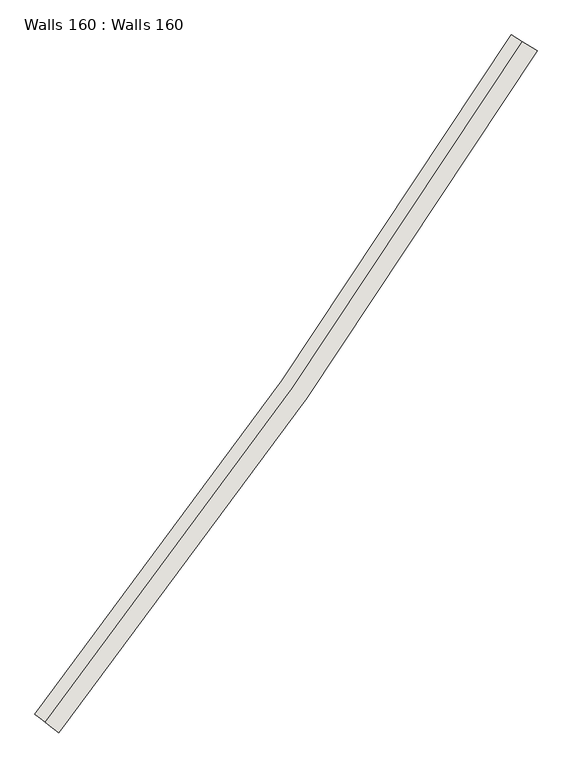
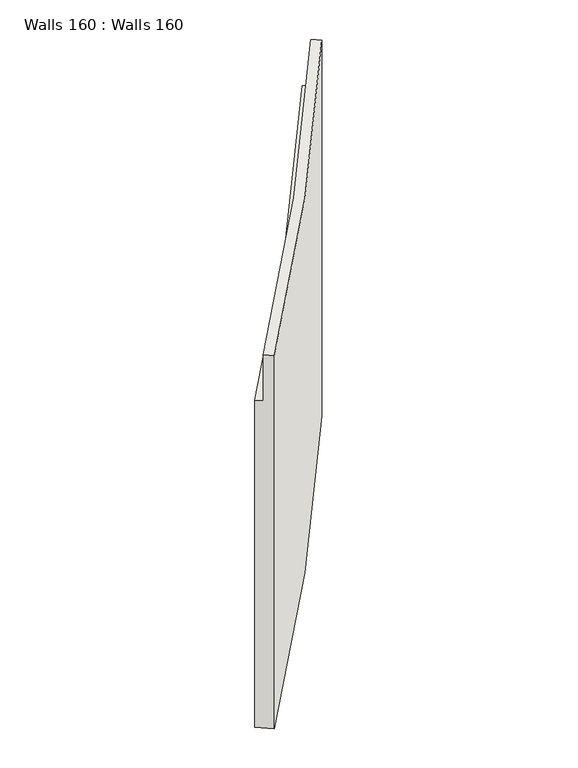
"""IFC4 building model written with IfcOpenShell, lengths in millimetres: wall geometry, Walls 160 : Walls 160."""

from ifc_helpers import new_model, si_unit, frame, origin, place, context, project, spatial, source, transform, mapped, element, save
from ifc_brep_helpers import plane_surface, spline_curve, spline_surface, advanced_brep


def walls_160_walls_160_15663184(model_context):
    return source(origin(), model_context, "Body", "AdvancedBrep", [
        advanced_brep(
        [(150928.5966484, 61341.0270217, 649170.1851545), (151098.2153944, 61235.0577761, 649170.1851545), (151098.2153944, 61235.0577761, 640989.9781818), (150801.3825889, 61420.5039559, 640989.9781818), (150801.3825889, 61420.5039559, 648170.1751545), (150928.5966484, 61341.0270217, 648170.1751545), (145414.6633354, 53477.1832277, 649010.216017), (145414.6633354, 53477.1832277, 648010.2060169), (145296.1267959, 53569.1021528, 648010.2060169), (145296.1267959, 53569.1021528, 640889.7832813), (145572.7120549, 53354.624661, 640889.7832813), (145572.7120549, 53354.624661, 649010.216017)],
        [
            (0, 1),
            (1, 2),
            (2, 3),
            (3, 4),
            (4, 5),
            (5, 0),
            (6, 7),
            (7, 8),
            (8, 9),
            (9, 10),
            (10, 11),
            (11, 6),
            (11, 1, spline_curve(3, [(145572.7120549, 53354.624661, 649010.216017), (146559.160717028, 54620.161896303, 649036.877540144), (147513.656071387, 55910.734756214, 649063.539062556), (149356.281783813, 58538.662340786, 649116.862108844), (150244.412142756, 59876.017066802, 649143.523631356), (151098.2153944, 61235.0577761, 649170.1851545)], [4, 2, 4], [0.0, 15.778976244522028, 31.557952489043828])),
            (0, 6, spline_curve(3, [(150928.5966484, 61341.0270217, 649170.1851545), (150076.58022696, 59984.846385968, 649143.523631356), (149190.309052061, 58650.30653048, 649116.862108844), (147351.541660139, 56027.91107812, 649063.539062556), (146399.045442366, 54740.0554807, 649036.877540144), (145414.6633354, 53477.1832277, 649010.216017)], [4, 2, 4], [0.0, 15.7789762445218, 31.557952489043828])),
            (10, 2, spline_curve(3, [(145572.7120549, 53354.624661, 640889.7832813), (146559.160717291, 54620.161896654, 640906.482431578), (147513.656071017, 55910.734756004, 640923.181581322), (149356.281784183, 58538.662340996, 640956.579881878), (150244.412142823, 59876.017066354, 640973.279031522), (151098.2153944, 61235.0577761, 640989.9781818)], [4, 2, 4], [0.0, 15.794829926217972, 31.589659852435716])),
            (9, 3, spline_curve(3, [(145296.1267959, 53569.1021528, 640889.7832813), (146278.958986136, 54829.97566888, 640906.482431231), (147229.95585151, 56115.793319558, 640923.181581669), (149065.82950329, 58734.039672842, 640956.579881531), (149950.706289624, 60066.468375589, 640973.279031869), (150801.3825889, 61420.5039559, 640989.9781818)], [4, 2, 4], [0.0, 15.765204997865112, 31.530409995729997])),
            (8, 4, spline_curve(3, [(145296.1267959, 53569.1021528, 648010.2060169), (146278.958986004, 54829.975669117, 648036.867540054), (147229.955851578, 56115.793319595, 648063.529062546), (149065.829503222, 58734.039672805, 648116.852108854), (149950.706289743, 60066.468375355, 648143.513631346), (150801.3825889, 61420.5039559, 648170.1751545)], [4, 2, 4], [0.0, 15.736754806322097, 31.47350961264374])),
            (7, 5, spline_curve(3, [(145414.6633354, 53477.1832277, 648010.2060169), (146399.045442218, 54740.055480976, 648036.867540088), (147351.541660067, 56027.911078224, 648063.529062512), (149190.309052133, 58650.306530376, 648116.852108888), (150076.580227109, 59984.846385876, 648143.513631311), (150928.5966484, 61341.0270217, 648170.1751545)], [4, 2, 4], [0.0, 15.74994004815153, 31.499880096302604])),
        ],
        [
            plane_surface(frame((150942.7315439, 61332.1962513, 646110.1128303), z_axis=(0.5298462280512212, 0.8480937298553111, 0.0), x_axis=(0.8480937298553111, -0.5298462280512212, 0.0))),
            plane_surface(frame((145427.8340621, 53466.9700138, 645970.0684384), z_axis=(-0.6127928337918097, -0.79024359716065, 0.0), x_axis=(0.79024359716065, -0.6127928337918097, 0.0))),
            spline_surface(3, 3, [[(145414.6633354, 53477.1832277, 649010.216017), (146399.045442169, 54740.055480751, 649036.877539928), (147351.541659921, 56027.911078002, 649063.539062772), (149190.309052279, 58650.306530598, 649116.862108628), (150076.580226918, 59984.846385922, 649143.523631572), (150928.5966484, 61341.0270217, 649170.1851545)], [(145441.004788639, 53456.756799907, 649010.216017), (146425.73132131, 54720.073216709, 649036.877539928), (147378.560728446, 56008.38169097, 649063.539062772), (149217.971174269, 58631.699165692, 649116.862108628), (150104.552212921, 59966.708166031, 649143.523631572), (150956.866439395, 61323.365480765, 649170.1851545)], [(145467.346241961, 53436.330372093, 649010.216017), (146452.417200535, 54700.090952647, 649036.877539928), (147405.579796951, 55988.85230402, 649063.539062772), (149245.633296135, 58613.091800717, 649116.862108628), (150132.524198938, 59948.569946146, 649143.523631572), (150985.136230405, 61305.703939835, 649170.1851545)], [(145520.029148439, 53395.477516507, 649010.216017), (146505.788958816, 54660.126424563, 649036.877539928), (147459.617933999, 55949.793529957, 649063.539062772), (149300.957540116, 58575.877070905, 649116.862108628), (150188.468170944, 59912.293506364, 649143.523631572), (151041.675812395, 61270.380857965, 649170.1851545)], [(145546.370601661, 53375.051088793, 649010.216017), (146532.474837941, 54640.144160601, 649036.877539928), (147486.637002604, 55930.264143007, 649063.539062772), (149328.619662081, 58557.26970593, 649116.862108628), (150216.440156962, 59894.155286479, 649143.523631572), (151069.945603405, 61252.719317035, 649170.1851545)], [(145572.7120549, 53354.624661, 649010.216017), (146559.160717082, 54620.161896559, 649036.877539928), (147513.656071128, 55910.734755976, 649063.539062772), (149356.281784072, 58538.662341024, 649116.862108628), (150244.412142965, 59876.017066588, 649143.523631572), (151098.2153944, 61235.0577761, 649170.1851545)]], [4, 2, 4], [4, 2, 4], [0.0, 0.32808398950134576, 0.6561679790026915], [0.0, 15.778976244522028, 31.557952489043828]),
            spline_surface(3, 3, [[(145572.7120549, 53354.624661, 649010.216017), (146559.160717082, 54620.161896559, 649036.877539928), (147513.656071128, 55910.734755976, 649063.539062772), (149356.281784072, 58538.662341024, 649116.862108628), (150244.412142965, 59876.017066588, 649143.523631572), (151098.2153944, 61235.0577761, 649170.1851545)], [(145572.7120549, 53354.624661, 647656.810561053), (146559.160717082, 54620.161896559, 647681.811688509), (147513.656071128, 55910.734755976, 647706.812815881), (149356.281784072, 58538.662341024, 647756.815070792), (150244.412142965, 59876.017066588, 647781.816198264), (151098.2153944, 61235.0577761, 647806.81732572)], [(145572.7120549, 53354.624661, 646303.405105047), (146559.160717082, 54620.161896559, 646326.74583703), (147513.656071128, 55910.734755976, 646350.08656898), (149356.281784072, 58538.662341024, 646396.768032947), (150244.412142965, 59876.017066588, 646420.108764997), (151098.2153944, 61235.0577761, 646443.44949698)], [(145572.7120549, 53354.624661, 643596.594193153), (146559.160717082, 54620.161896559, 643616.614134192), (147513.656071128, 55910.734755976, 643636.634075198), (149356.281784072, 58538.662341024, 643676.673957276), (150244.412142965, 59876.017066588, 643696.693898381), (151098.2153944, 61235.0577761, 643716.71383942)], [(145572.7120549, 53354.624661, 642243.188737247), (146559.160717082, 54620.161896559, 642261.548282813), (147513.656071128, 55910.734755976, 642279.907828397), (149356.281784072, 58538.662341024, 642316.62691953), (150244.412142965, 59876.017066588, 642334.986465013), (151098.2153944, 61235.0577761, 642353.34601058)], [(145572.7120549, 53354.624661, 640889.7832813), (146559.160717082, 54620.161896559, 640906.482431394), (147513.656071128, 55910.734755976, 640923.181581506), (149356.281784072, 58538.662341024, 640956.579881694), (150244.412142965, 59876.017066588, 640973.279031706), (151098.2153944, 61235.0577761, 640989.9781818)]], [4, 2, 4], [4, 2, 4], [0.0, 13.369947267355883, 26.739894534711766], [0.0, 15.794829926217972, 31.589659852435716]),
            spline_surface(3, 3, [[(145572.7120549, 53354.624661, 640889.7832813), (146559.160717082, 54620.161896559, 640906.482431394), (147513.656071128, 55910.734755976, 640923.181581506), (149356.281784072, 58538.662341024, 640956.579881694), (150244.412142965, 59876.017066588, 640973.279031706), (151098.2153944, 61235.0577761, 640989.9781818)], [(145526.614511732, 53390.370909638, 640889.7832813), (146512.460428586, 54655.130858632, 640906.482431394), (147466.372701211, 55944.911183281, 640923.181581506), (149307.873070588, 58571.225229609, 640956.579881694), (150195.461167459, 59907.758951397, 640973.279031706), (151048.743260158, 61265.965472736, 640989.9781818)], [(145480.516968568, 53426.117158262, 640889.7832813), (146465.760140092, 54690.099820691, 640906.482431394), (147419.089331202, 55979.087610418, 640923.181581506), (149259.464357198, 58603.788118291, 640956.579881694), (150146.510191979, 59939.500836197, 640973.279031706), (150999.271125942, 61296.873169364, 640989.9781818)], [(145388.321882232, 53497.609655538, 640889.7832813), (146372.359563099, 54760.037744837, 640906.482431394), (147324.522591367, 56047.440465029, 640923.181581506), (149162.646930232, 58668.913895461, 640956.579881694), (150048.608240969, 60002.984605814, 640973.279031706), (150900.326857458, 61358.688562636, 640989.9781818)], [(145342.224339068, 53533.355904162, 640889.7832813), (146325.659274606, 54795.006706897, 640906.482431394), (147277.239221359, 56081.616892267, 640923.181581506), (149114.238216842, 58701.476784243, 640956.579881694), (149999.657265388, 60034.726490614, 640973.279031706), (150850.854723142, 61389.596259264, 640989.9781818)], [(145296.1267959, 53569.1021528, 640889.7832813), (146278.958986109, 54829.975668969, 640906.482431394), (147229.955851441, 56115.793319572, 640923.181581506), (149065.829503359, 58734.039672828, 640956.579881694), (149950.706289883, 60066.468375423, 640973.279031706), (150801.3825889, 61420.5039559, 640989.9781818)]], [4, 2, 4], [4, 2, 4], [0.0, 0.5741469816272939, 1.1482939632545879], [0.0, 15.765204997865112, 31.530409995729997]),
            spline_surface(3, 3, [[(145296.1267959, 53569.1021528, 640889.7832813), (146278.958986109, 54829.975668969, 640906.482431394), (147229.955851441, 56115.793319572, 640923.181581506), (149065.829503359, 58734.039672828, 640956.579881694), (149950.706289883, 60066.468375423, 640973.279031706), (150801.3825889, 61420.5039559, 640989.9781818)], [(145296.1267959, 53569.1021528, 642076.520403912), (146278.958986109, 54829.975668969, 642094.879949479), (147229.955851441, 56115.793319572, 642113.239495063), (149065.829503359, 58734.039672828, 642149.958586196), (149950.706289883, 60066.468375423, 642168.318131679), (150801.3825889, 61420.5039559, 642186.677677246)], [(145296.1267959, 53569.1021528, 643263.257526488), (146278.958986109, 54829.975668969, 643283.277467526), (147229.955851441, 56115.793319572, 643303.297408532), (149065.829503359, 58734.039672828, 643343.33729061), (149950.706289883, 60066.468375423, 643363.357231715), (150801.3825889, 61420.5039559, 643383.377172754)], [(145296.1267959, 53569.1021528, 645636.731771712), (146278.958986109, 54829.975668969, 645660.072503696), (147229.955851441, 56115.793319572, 645683.413235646), (149065.829503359, 58734.039672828, 645730.094699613), (149950.706289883, 60066.468375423, 645753.435431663), (150801.3825889, 61420.5039559, 645776.776163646)], [(145296.1267959, 53569.1021528, 646823.468894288), (146278.958986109, 54829.975668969, 646848.470021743), (147229.955851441, 56115.793319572, 646873.471149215), (149065.829503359, 58734.039672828, 646923.473404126), (149950.706289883, 60066.468375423, 646948.474531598), (150801.3825889, 61420.5039559, 646973.475659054)], [(145296.1267959, 53569.1021528, 648010.2060169), (146278.958986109, 54829.975668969, 648036.867539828), (147229.955851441, 56115.793319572, 648063.529062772), (149065.829503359, 58734.039672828, 648116.852108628), (149950.706289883, 60066.468375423, 648143.513631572), (150801.3825889, 61420.5039559, 648170.1751545)]], [4, 2, 4], [4, 2, 4], [0.0, 11.72951091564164, 23.45902183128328], [0.0, 15.736754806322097, 31.47350961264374]),
            spline_surface(3, 3, [[(145296.1267959, 53569.1021528, 648010.2060169), (146278.958986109, 54829.975668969, 648036.867539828), (147229.955851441, 56115.793319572, 648063.529062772), (149065.829503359, 58734.039672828, 648116.852108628), (149950.706289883, 60066.468375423, 648143.513631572), (150801.3825889, 61420.5039559, 648170.1751545)], [(145315.882885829, 53553.782331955, 648010.2060169), (146298.973395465, 54814.988970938, 648036.867539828), (147250.220152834, 56101.146279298, 648063.529062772), (149086.576094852, 58720.084149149, 648116.852108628), (149971.685279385, 60052.864710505, 648143.513631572), (150822.584932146, 61407.257800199, 648170.1751545)], [(145335.638975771, 53538.462511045, 648010.2060169), (146318.987804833, 54800.002272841, 648036.867539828), (147270.484454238, 56086.499239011, 648063.529062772), (149107.322686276, 58706.128625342, 648116.852108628), (149992.664268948, 60039.26104559, 648143.513631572), (150843.787275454, 61394.011644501, 648170.1751545)], [(145375.151155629, 53507.822869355, 648010.2060169), (146359.016623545, 54770.028876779, 648036.867539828), (147311.013057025, 56057.205158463, 648063.529062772), (149148.815869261, 58678.217577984, 648116.852108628), (150034.622247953, 60012.053715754, 648143.513631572), (150886.191961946, 61367.519333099, 648170.1751545)], [(145394.907245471, 53492.503048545, 648010.2060169), (146379.031032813, 54755.042178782, 648036.867539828), (147331.277358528, 56042.558118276, 648063.529062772), (149169.562460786, 58664.262054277, 648116.852108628), (150055.601237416, 59998.45005084, 648143.513631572), (150907.394305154, 61354.273177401, 648170.1751545)], [(145414.6633354, 53477.1832277, 648010.2060169), (146399.045442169, 54740.055480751, 648036.867539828), (147351.541659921, 56027.911078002, 648063.529062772), (149190.309052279, 58650.306530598, 648116.852108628), (150076.580226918, 59984.846385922, 648143.513631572), (150928.5966484, 61341.0270217, 648170.1751545)]], [4, 2, 4], [4, 2, 4], [0.0, 0.2460629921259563, 0.4921259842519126], [0.0, 15.74994004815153, 31.499880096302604]),
            spline_surface(3, 3, [[(145414.6633354, 53477.1832277, 648010.2060169), (146399.045442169, 54740.055480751, 648036.867539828), (147351.541659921, 56027.911078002, 648063.529062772), (149190.309052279, 58650.306530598, 648116.852108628), (150076.580226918, 59984.846385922, 648143.513631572), (150928.5966484, 61341.0270217, 648170.1751545)], [(145414.6633354, 53477.1832277, 648176.874350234), (146399.045442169, 54740.055480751, 648203.535873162), (147351.541659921, 56027.911078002, 648230.197396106), (149190.309052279, 58650.306530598, 648283.520441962), (150076.580226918, 59984.846385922, 648310.181964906), (150928.5966484, 61341.0270217, 648336.843487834)], [(145414.6633354, 53477.1832277, 648343.542683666), (146399.045442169, 54740.055480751, 648370.204206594), (147351.541659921, 56027.911078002, 648396.865729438), (149190.309052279, 58650.306530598, 648450.188775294), (150076.580226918, 59984.846385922, 648476.850298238), (150928.5966484, 61341.0270217, 648503.511821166)], [(145414.6633354, 53477.1832277, 648676.879350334), (146399.045442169, 54740.055480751, 648703.540873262), (147351.541659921, 56027.911078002, 648730.202396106), (149190.309052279, 58650.306530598, 648783.525441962), (150076.580226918, 59984.846385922, 648810.186964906), (150928.5966484, 61341.0270217, 648836.848487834)], [(145414.6633354, 53477.1832277, 648843.547683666), (146399.045442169, 54740.055480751, 648870.209206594), (147351.541659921, 56027.911078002, 648896.870729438), (149190.309052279, 58650.306530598, 648950.193775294), (150076.580226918, 59984.846385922, 648976.855298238), (150928.5966484, 61341.0270217, 649003.516821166)], [(145414.6633354, 53477.1832277, 649010.216017), (146399.045442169, 54740.055480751, 649036.877539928), (147351.541659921, 56027.911078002, 649063.539062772), (149190.309052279, 58650.306530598, 649116.862108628), (150076.580226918, 59984.846385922, 649143.523631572), (150928.5966484, 61341.0270217, 649170.1851545)]], [4, 2, 4], [4, 2, 4], [0.0, 1.6404363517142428, 3.2808727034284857], [0.0, 15.762384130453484, 31.524768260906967]),
        ],
        [
            (0, [[1, 2, 3, 4, 5, 6]]),
            (1, [[7, 8, 9, 10, 11, 12]]),
            (2, [[-12, 13, -1, 14]]),
            (3, [[-11, 15, -2, -13]]),
            (4, [[-10, 16, -3, -15]]),
            (5, [[-9, 17, -4, -16]]),
            (6, [[-8, 18, -5, -17]]),
            (7, [[-7, -14, -6, -18]]),
        ],
    ),
    ])


if __name__ == "__main__":
    model = new_model("IFC4")
    model_context = context("Model", 3, world=origin())
    ifc_project = project(units=[si_unit("LENGTHUNIT", "METRE", prefix="MILLI")], contexts=[model_context])
    site = spatial("IfcSite", under=ifc_project)
    building = spatial("IfcBuilding", under=site)
    placement = place(None, origin())
    walls_160_walls_160_shape = walls_160_walls_160_15663184(model_context)
    element("IfcWall", 1, ObjectType="Walls 160 : Walls 160", at=placement, inside=building, context=model_context, shape_type="MappedRepresentation", body=[
        mapped(walls_160_walls_160_shape, transform((0.0, 0.0, 0.0), x_axis=(1.0, 0.0, 0.0), y_axis=(0.0, 1.0, 0.0), z_axis=(0.0, 0.0, 1.0))),
    ])
    save(model, "model.ifc")
